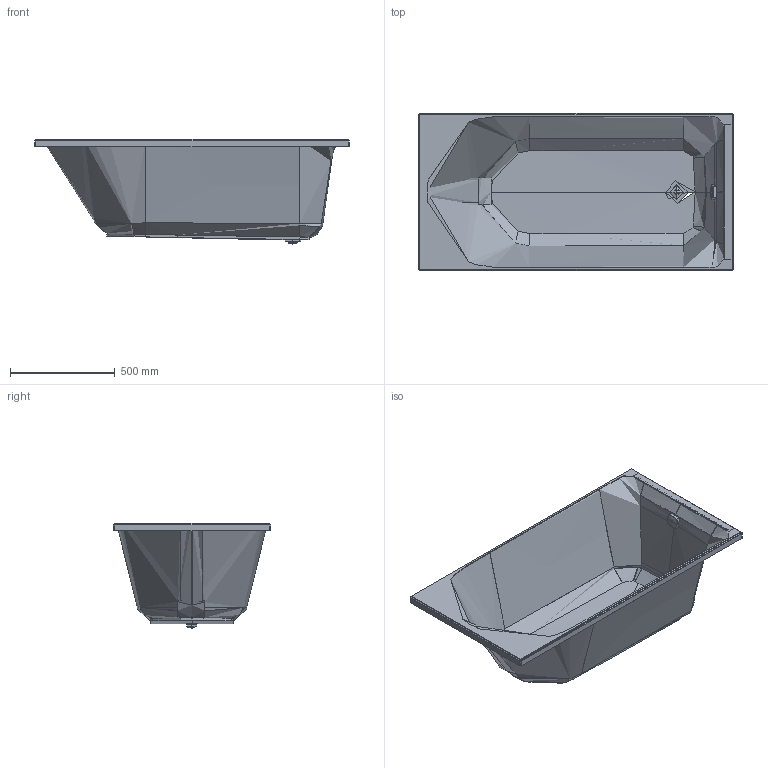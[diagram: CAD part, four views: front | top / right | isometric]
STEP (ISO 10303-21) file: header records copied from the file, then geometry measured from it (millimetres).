
FILE_DESCRIPTION(/* description */ (''),/* implementation_level */ '2;1');
FILE_NAME(/* name */ '700471_760471',/* time_stamp */ '2021-06-21T15:07:15+02:00',/* author */ (''),/* organization */ (''),/* preprocessor_version */ 'ST-DEVELOPER v15',/* originating_system */ '',/* authorisation */ '');
FILE_SCHEMA (('AUTOMOTIVE_DESIGN'));
Products named in the file (1): Document
Bounding box: 1500 x 750 x 501.35 mm (x, y, z)
Topology: 4 solids, 9 shells, 498 faces, 1438 edges, 868 vertices
Faces by surface type: bspline 381, plane 117
Entity records: 1594007 total; most frequent: CARTESIAN_POINT 1585803, ORIENTED_EDGE 2777, EDGE_CURVE 1450, B_SPLINE_CURVE_WITH_KNOTS 1053, VERTEX_POINT 874, EDGE_LOOP 513, ADVANCED_FACE 495, FACE_OUTER_BOUND 495
